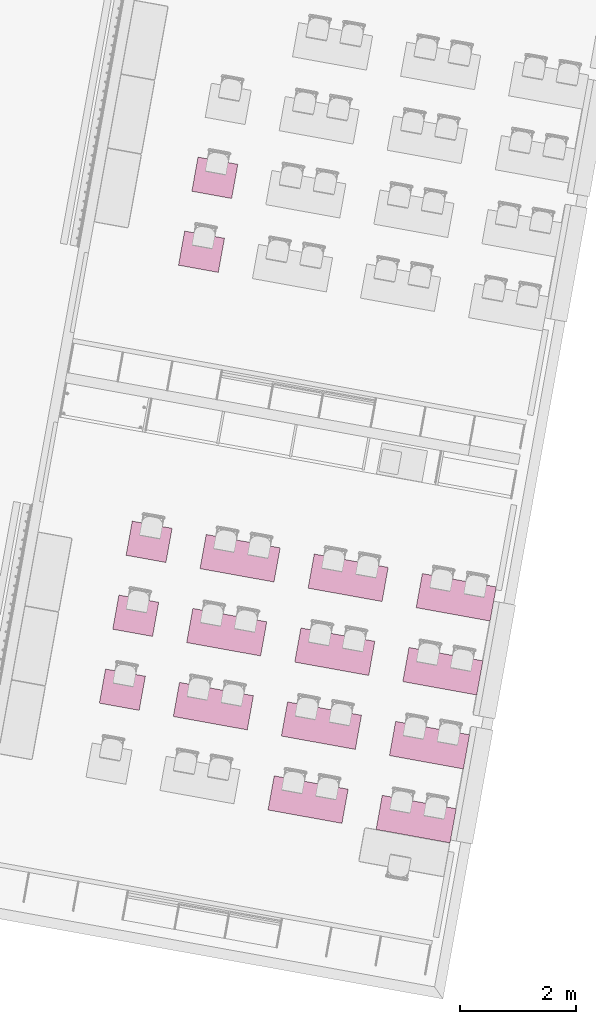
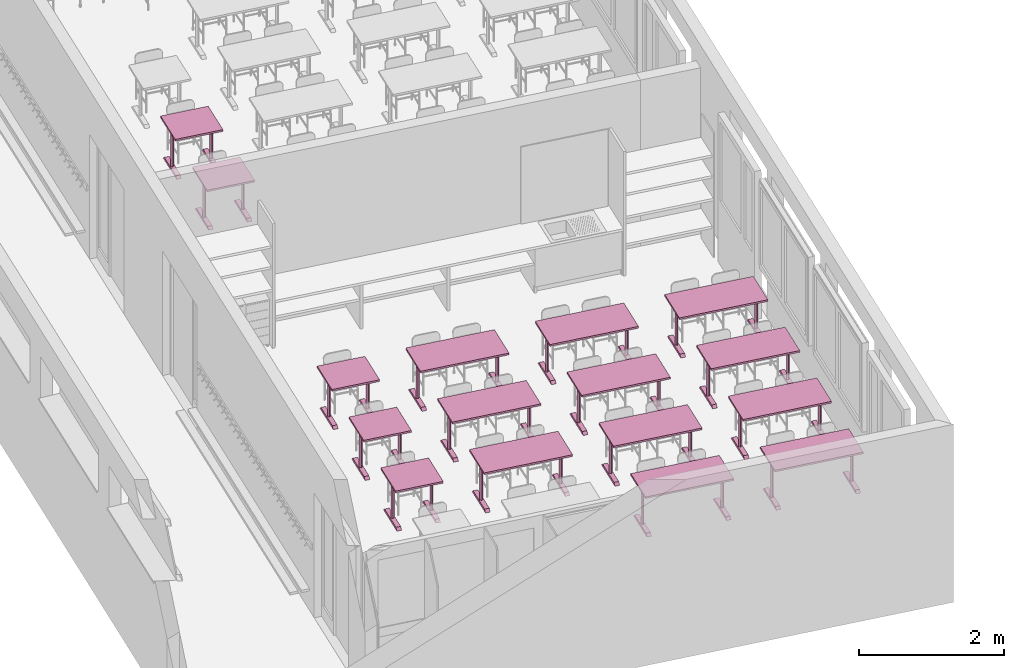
# One storey, part 5 of 79: 16 furnishings.
"""IFC2X3 building model written with IfcOpenShell, lengths in metres."""

from ifc_helpers import new_model, entity, si_unit, converted_unit, derived_unit, money_unit, direction, frame, origin_with_axes, place, context, subcontext, project, spatial, faceted_brep, source, transform, mapped, material, type_object, element, save


model = new_model("IFC2X3")

# Units and contexts
model_context = context("Model", 3, precision=1e-05, world=origin_with_axes(), true_north=direction((0.0, 1.0)))
body_context = subcontext(model_context, "Body", "Model", "MODEL_VIEW")
ifc_project = project(units=[si_unit("LENGTHUNIT", "METRE"), si_unit("AREAUNIT", "SQUARE_METRE"), si_unit("VOLUMEUNIT", "CUBIC_METRE"), converted_unit("PLANEANGLEUNIT", "DEGREE", entity("IfcPlaneAngleMeasure", 0.0174532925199), si_unit("PLANEANGLEUNIT", "RADIAN"), dimensions=[0, 0, 0, 0, 0, 0, 0]), money_unit("CHF"), converted_unit("TIMEUNIT", "Year", entity("IfcTimeMeasure", 31556926.0), si_unit("TIMEUNIT", "SECOND"), dimensions=[0, 0, 1, 0, 0, 0, 0]), si_unit("MASSUNIT", "GRAM", prefix="KILO"), si_unit("THERMODYNAMICTEMPERATUREUNIT", "DEGREE_CELSIUS"), si_unit("LUMINOUSINTENSITYUNIT", "LUMEN"), si_unit("ENERGYUNIT", "JOULE", prefix="MEGA"), derived_unit("THERMALCONDUCTANCEUNIT", [(si_unit("POWERUNIT", "WATT"), 1), (si_unit("LENGTHUNIT", "METRE"), -1), (si_unit("THERMODYNAMICTEMPERATUREUNIT", "KELVIN"), -1)]), derived_unit("SPECIFICHEATCAPACITYUNIT", [(si_unit("ENERGYUNIT", "JOULE"), 1), (si_unit("MASSUNIT", "GRAM", prefix="KILO"), -1), (si_unit("THERMODYNAMICTEMPERATUREUNIT", "KELVIN"), -1)]), derived_unit("MASSDENSITYUNIT", [(si_unit("MASSUNIT", "GRAM", prefix="KILO"), 1), (si_unit("VOLUMEUNIT", "CUBIC_METRE"), -1)])], contexts=[model_context])

# Site, building, storey
site_placement = place(None, frame((0.0, 0.0, 0.0), z_axis=(0.0, 0.0, 1.0), x_axis=(-0.177771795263, -0.984071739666, 0.0)))
site = spatial("IfcSite", under=ifc_project, at=site_placement, Name="Site", CompositionType="ELEMENT")
building_placement = place(site_placement, origin_with_axes())
building = spatial("IfcBuilding", under=site, at=building_placement, Name="Bâtiment", CompositionType="ELEMENT")
storey_placement = place(building_placement, origin_with_axes())
storey = spatial("IfcBuildingStorey", under=building, at=storey_placement, Name="RDC", CompositionType="ELEMENT", Elevation=0.0)

# Furnishings
ifc_material = material(Name="Matériau de construction IFC")
furnishing_element_type = type_object("IfcFurnishingElementType", Name="Table de bureau 21")
shared_shape_1 = source(origin_with_axes(), body_context, "Body", "Brep", [
    faceted_brep([(0.0, 0.0, 0.7), (0.0, 0.0, 0.67), (1.3, 0.0, 0.67), (1.3, 0.0, 0.7), (0.0, 0.6, 0.7), (0.0, 0.6, 0.67), (1.3, 0.6, 0.67), (1.3, 0.6, 0.7)], [[[0, 1, 2, 3]], [[4, 5, 1, 0]], [[1, 5, 6, 2]], [[3, 2, 6, 7]], [[0, 3, 7, 4]], [[7, 6, 5, 4]]]),
    faceted_brep([(0.03, 0.025, 0.0), (0.03, 0.575, 0.0), (0.1, 0.575, 0.0), (0.1, 0.025, 0.0), (0.03, 0.065, 0.04), (0.03, 0.535, 0.04), (0.1, 0.535, 0.04), (0.1, 0.065, 0.04)], [[[0, 1, 2, 3]], [[1, 0, 4, 5]], [[1, 5, 6, 2]], [[3, 2, 6, 7]], [[4, 0, 3, 7]], [[5, 4, 7, 6]]]),
    faceted_brep([(0.09, 0.3, 0.04), (0.065, 0.275, 0.04), (0.04, 0.3, 0.04), (0.065, 0.325, 0.04), (0.09, 0.3, 0.62), (0.065, 0.275, 0.62), (0.04, 0.3, 0.62), (0.065, 0.325, 0.62)], [[[0, 1, 2, 3]], [[1, 0, 4, 5]], [[2, 1, 5, 6]], [[3, 2, 6, 7]], [[0, 3, 7, 4]], [[4, 7, 6, 5]]]),
    faceted_brep([(0.085, 0.3, 0.62), (0.065, 0.28, 0.62), (0.045, 0.3, 0.62), (0.065, 0.32, 0.62), (0.085, 0.3, 0.67), (0.065, 0.28, 0.67), (0.045, 0.3, 0.67), (0.065, 0.32, 0.67)], [[[0, 1, 2, 3]], [[1, 0, 4, 5]], [[2, 1, 5, 6]], [[3, 2, 6, 7]], [[0, 3, 7, 4]], [[4, 7, 6, 5]]]),
    faceted_brep([(1.2, 0.025, 0.0), (1.2, 0.575, 0.0), (1.27, 0.575, 0.0), (1.27, 0.025, 0.0), (1.2, 0.065, 0.04), (1.2, 0.535, 0.04), (1.27, 0.535, 0.04), (1.27, 0.065, 0.04)], [[[0, 1, 2, 3]], [[1, 0, 4, 5]], [[1, 5, 6, 2]], [[3, 2, 6, 7]], [[0, 3, 7, 4]], [[5, 4, 7, 6]]]),
    faceted_brep([(1.26, 0.3, 0.04), (1.235, 0.275, 0.04), (1.21, 0.3, 0.04), (1.235, 0.325, 0.04), (1.26, 0.3, 0.62), (1.235, 0.275, 0.62), (1.21, 0.3, 0.62), (1.235, 0.325, 0.62)], [[[0, 1, 2, 3]], [[1, 0, 4, 5]], [[2, 1, 5, 6]], [[3, 2, 6, 7]], [[0, 3, 7, 4]], [[4, 7, 6, 5]]]),
    faceted_brep([(1.255, 0.3, 0.62), (1.235, 0.28, 0.62), (1.215, 0.3, 0.62), (1.235, 0.32, 0.62), (1.255, 0.3, 0.67), (1.235, 0.28, 0.67), (1.215, 0.3, 0.67), (1.235, 0.32, 0.67)], [[[0, 1, 2, 3]], [[1, 0, 4, 5]], [[2, 1, 5, 6]], [[3, 2, 6, 7]], [[0, 3, 7, 4]], [[4, 7, 6, 5]]]),
])
for number, where, z_axis, x_axis, name in (
    (1, (159.749841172, -149.777150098, 0.0), (0.0, 0.0, 1.0), (0.0, 1.0, 0.0), "bureau-2pl"),
    (2, (158.449841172, -149.777150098, 0.0), (0.0, 0.0, 1.0), (0.0, 1.0, 0.0), "bureau-2pl"),
    (3, (161.049841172, -151.677150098, 0.0), (0.0, 0.0, 1.0), (0.0, 1.0, 0.0), "bureau-2pl"),
    (4, (161.049841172, -153.577150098, 0.0), (0.0, 0.0, 1.0), (0.0, 1.0, 0.0), "bureau-2pl"),
    (5, (161.049841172, -149.777150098, 0.0), (0.0, 0.0, 1.0), (0.0, 1.0, 0.0), "bureau-2pl"),
    (6, (159.749841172, -153.577150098, 0.0), (0.0, 0.0, 1.0), (0.0, 1.0, 0.0), "bureau-2pl"),
    (7, (159.749841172, -151.677150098, 0.0), (0.0, 0.0, 1.0), (0.0, 1.0, 0.0), "bureau-2pl"),
    (8, (158.449841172, -153.577150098, 0.0), (0.0, 0.0, 1.0), (0.0, 1.0, 0.0), "bureau-2pl"),
    (9, (162.349841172, -151.677150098, 0.0), (0.0, 0.0, 1.0), (0.0, 1.0, 0.0), "bureau-2pl"),
    (10, (162.349841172, -149.777150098, 0.0), (0.0, 0.0, 1.0), (0.0, 1.0, 0.0), "bureau-2pl"),
    (11, (158.449841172, -151.677150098, 0.0), (0.0, 0.0, 1.0), (0.0, 1.0, 0.0), "bureau-2pl"),
):
    element("IfcFurnishingElement", number, at=place(storey_placement, frame(where, z_axis=z_axis, x_axis=x_axis)), inside=storey, type_object=furnishing_element_type, material=ifc_material, Name=name, ObjectType="SYSTEM_FURNITURE", context=body_context, shape_type="MappedRepresentation", body=[
        mapped(shared_shape_1, transform((0.0, 0.0, 0.0))),
    ])
shared_shape_2 = source(origin_with_axes(), body_context, "Body", "Brep", [
    faceted_brep([(0.0, 0.0, 0.7), (0.0, 0.0, 0.67), (0.7, 0.0, 0.67), (0.7, 0.0, 0.7), (0.0, 0.6, 0.7), (0.0, 0.6, 0.67), (0.7, 0.6, 0.67), (0.7, 0.6, 0.7)], [[[0, 1, 2, 3]], [[4, 5, 1, 0]], [[1, 5, 6, 2]], [[3, 2, 6, 7]], [[0, 3, 7, 4]], [[7, 6, 5, 4]]]),
    faceted_brep([(0.03, 0.025, 0.0), (0.03, 0.575, 0.0), (0.1, 0.575, 0.0), (0.1, 0.025, 0.0), (0.03, 0.065, 0.04), (0.03, 0.535, 0.04), (0.1, 0.535, 0.04), (0.1, 0.065, 0.04)], [[[0, 1, 2, 3]], [[1, 0, 4, 5]], [[1, 5, 6, 2]], [[3, 2, 6, 7]], [[4, 0, 3, 7]], [[5, 4, 7, 6]]]),
    faceted_brep([(0.09, 0.3, 0.04), (0.065, 0.275, 0.04), (0.04, 0.3, 0.04), (0.065, 0.325, 0.04), (0.09, 0.3, 0.62), (0.065, 0.275, 0.62), (0.04, 0.3, 0.62), (0.065, 0.325, 0.62)], [[[0, 1, 2, 3]], [[1, 0, 4, 5]], [[2, 1, 5, 6]], [[3, 2, 6, 7]], [[0, 3, 7, 4]], [[4, 7, 6, 5]]]),
    faceted_brep([(0.085, 0.3, 0.62), (0.065, 0.28, 0.62), (0.045, 0.3, 0.62), (0.065, 0.32, 0.62), (0.085, 0.3, 0.67), (0.065, 0.28, 0.67), (0.045, 0.3, 0.67), (0.065, 0.32, 0.67)], [[[0, 1, 2, 3]], [[1, 0, 4, 5]], [[2, 1, 5, 6]], [[3, 2, 6, 7]], [[0, 3, 7, 4]], [[4, 7, 6, 5]]]),
    faceted_brep([(0.6, 0.025, 0.0), (0.6, 0.575, 0.0), (0.67, 0.575, 0.0), (0.67, 0.025, 0.0), (0.6, 0.065, 0.04), (0.6, 0.535, 0.04), (0.67, 0.535, 0.04), (0.67, 0.065, 0.04)], [[[0, 1, 2, 3]], [[1, 0, 4, 5]], [[1, 5, 6, 2]], [[3, 2, 6, 7]], [[4, 0, 3, 7]], [[5, 4, 7, 6]]]),
    faceted_brep([(0.66, 0.3, 0.04), (0.635, 0.275, 0.04), (0.61, 0.3, 0.04), (0.635, 0.325, 0.04), (0.66, 0.3, 0.62), (0.635, 0.275, 0.62), (0.61, 0.3, 0.62), (0.635, 0.325, 0.62)], [[[0, 1, 2, 3]], [[1, 0, 4, 5]], [[2, 1, 5, 6]], [[3, 2, 6, 7]], [[0, 3, 7, 4]], [[4, 7, 6, 5]]]),
    faceted_brep([(0.655, 0.3, 0.62), (0.635, 0.28, 0.62), (0.615, 0.3, 0.62), (0.635, 0.32, 0.62), (0.655, 0.3, 0.67), (0.635, 0.28, 0.67), (0.615, 0.3, 0.67), (0.635, 0.32, 0.67)], [[[0, 1, 2, 3]], [[1, 0, 4, 5]], [[2, 1, 5, 6]], [[3, 2, 6, 7]], [[0, 3, 7, 4]], [[4, 7, 6, 5]]]),
])
for number, where, z_axis, x_axis, name in (
    (12, (161.049841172, -154.877150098, 0.0), (0.0, 0.0, 1.0), (0.0, 1.0, 0.0), "bureau-2pl"),
    (13, (158.449841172, -154.877150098, 0.0), (0.0, 0.0, 1.0), (0.0, 1.0, 0.0), "bureau-2pl"),
    (14, (159.749841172, -154.877150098, 0.0), (0.0, 0.0, 1.0), (0.0, 1.0, 0.0), "bureau-2pl"),
    (15, (153.349841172, -154.877150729, 0.0), (0.0, 0.0, 1.0), (0.0, 1.0, 0.0), "bureau-2pl"),
    (16, (152.049841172, -154.877150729, 0.0), (0.0, 0.0, 1.0), (0.0, 1.0, 0.0), "bureau-2pl"),
):
    element("IfcFurnishingElement", number, at=place(storey_placement, frame(where, z_axis=z_axis, x_axis=x_axis)), inside=storey, type_object=furnishing_element_type, material=ifc_material, Name=name, ObjectType="SYSTEM_FURNITURE", context=body_context, shape_type="MappedRepresentation", body=[
        mapped(shared_shape_2, transform((0.0, 0.0, 0.0))),
    ])

save(model, "model.ifc")
